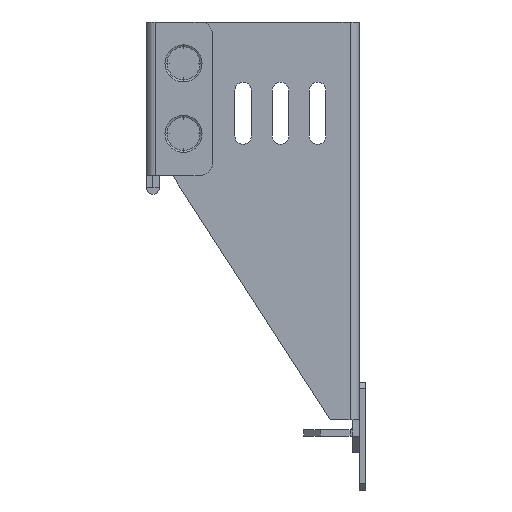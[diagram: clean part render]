
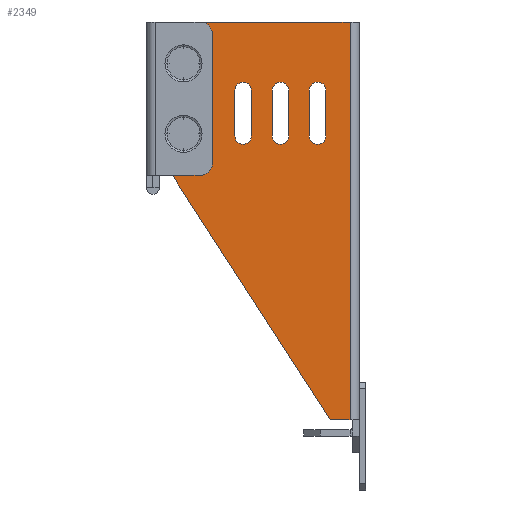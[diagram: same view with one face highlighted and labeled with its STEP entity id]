
A CAD part, left-side view. The second image highlights one B-rep face of the part: STEP entity #2349.
In plain terms, the highlighted planar face has unit normal (-1, 0, 0).
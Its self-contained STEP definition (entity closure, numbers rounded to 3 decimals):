
#513=DIRECTION('',(0.,1.,0.));
#514=VECTOR('',#513,46.2);
#515=CARTESIAN_POINT('',(-72.2,2.2,100.));
#516=LINE('',#515,#514);
#517=DIRECTION('',(0.,-1.,0.));
#518=VECTOR('',#517,4.8);
#519=CARTESIAN_POINT('',(-72.2,7.,4.));
#520=LINE('',#519,#518);
#521=DIRECTION('',(0.,-0.543,-0.84));
#522=VECTOR('',#521,72.618);
#523=CARTESIAN_POINT('',(-72.2,46.4,65.));
#524=LINE('',#523,#522);
#525=DIRECTION('',(0.,-1.,0.));
#526=VECTOR('',#525,2.);
#527=CARTESIAN_POINT('',(-72.2,48.4,65.));
#528=LINE('',#527,#526);
#529=DIRECTION('',(0.,0.,-1.));
#530=VECTOR('',#529,35.);
#531=CARTESIAN_POINT('',(-72.2,48.4,100.));
#532=LINE('',#531,#530);
#533=CARTESIAN_POINT('',(-72.2,10.,72.5));
#534=DIRECTION('',(-1.,0.,0.));
#535=DIRECTION('',(0.,1.,0.));
#536=AXIS2_PLACEMENT_3D('',#533,#534,#535);
#538=DIRECTION('',(0.,0.,-1.));
#539=VECTOR('',#538,11.);
#540=CARTESIAN_POINT('',(-72.2,8.,83.5));
#541=LINE('',#540,#539);
#542=CARTESIAN_POINT('',(-72.2,10.,83.5));
#543=DIRECTION('',(-1.,0.,0.));
#544=DIRECTION('',(0.,-1.,0.));
#545=AXIS2_PLACEMENT_3D('',#542,#543,#544);
#547=DIRECTION('',(0.,0.,1.));
#548=VECTOR('',#547,11.);
#549=CARTESIAN_POINT('',(-72.2,12.,72.5));
#550=LINE('',#549,#548);
#551=CARTESIAN_POINT('',(-72.2,19.,72.5));
#552=DIRECTION('',(-1.,0.,0.));
#553=DIRECTION('',(0.,1.,0.));
#554=AXIS2_PLACEMENT_3D('',#551,#552,#553);
#556=DIRECTION('',(0.,0.,-1.));
#557=VECTOR('',#556,11.);
#558=CARTESIAN_POINT('',(-72.2,17.,83.5));
#559=LINE('',#558,#557);
#560=CARTESIAN_POINT('',(-72.2,19.,83.5));
#561=DIRECTION('',(-1.,0.,0.));
#562=DIRECTION('',(0.,-1.,0.));
#563=AXIS2_PLACEMENT_3D('',#560,#561,#562);
#565=DIRECTION('',(0.,0.,1.));
#566=VECTOR('',#565,11.);
#567=CARTESIAN_POINT('',(-72.2,21.,72.5));
#568=LINE('',#567,#566);
#569=CARTESIAN_POINT('',(-72.2,28.,72.5));
#570=DIRECTION('',(-1.,0.,0.));
#571=DIRECTION('',(0.,1.,0.));
#572=AXIS2_PLACEMENT_3D('',#569,#570,#571);
#574=DIRECTION('',(0.,0.,-1.));
#575=VECTOR('',#574,11.);
#576=CARTESIAN_POINT('',(-72.2,26.,83.5));
#577=LINE('',#576,#575);
#578=CARTESIAN_POINT('',(-72.2,28.,83.5));
#579=DIRECTION('',(-1.,0.,0.));
#580=DIRECTION('',(0.,-1.,0.));
#581=AXIS2_PLACEMENT_3D('',#578,#579,#580);
#583=DIRECTION('',(0.,0.,1.));
#584=VECTOR('',#583,11.);
#585=CARTESIAN_POINT('',(-72.2,30.,72.5));
#586=LINE('',#585,#584);
#587=CARTESIAN_POINT('',(-72.2,42.4,90.));
#588=DIRECTION('',(1.,0.,0.));
#589=DIRECTION('',(0.,0.,1.));
#590=AXIS2_PLACEMENT_3D('',#587,#588,#589);
#592=CARTESIAN_POINT('',(-72.2,42.4,90.));
#593=DIRECTION('',(1.,0.,0.));
#594=DIRECTION('',(0.,0.,-1.));
#595=AXIS2_PLACEMENT_3D('',#592,#593,#594);
#597=CARTESIAN_POINT('',(-72.2,42.4,73.));
#598=DIRECTION('',(1.,0.,0.));
#599=DIRECTION('',(0.,0.,1.));
#600=AXIS2_PLACEMENT_3D('',#597,#598,#599);
#602=CARTESIAN_POINT('',(-72.2,42.4,73.));
#603=DIRECTION('',(1.,0.,0.));
#604=DIRECTION('',(0.,0.,-1.));
#605=AXIS2_PLACEMENT_3D('',#602,#603,#604);
#607=DIRECTION('',(0.,0.,1.));
#608=VECTOR('',#607,96.);
#609=CARTESIAN_POINT('',(-72.2,2.2,4.));
#610=LINE('',#609,#608);
#1341=CARTESIAN_POINT('',(-72.2,2.2,100.));
#1342=CARTESIAN_POINT('',(-72.2,48.4,100.));
#1343=VERTEX_POINT('',#1341);
#1344=VERTEX_POINT('',#1342);
#1345=CARTESIAN_POINT('',(-72.2,48.4,65.));
#1346=VERTEX_POINT('',#1345);
#1413=CARTESIAN_POINT('',(-72.2,12.,72.5));
#1414=CARTESIAN_POINT('',(-72.2,8.,72.5));
#1415=VERTEX_POINT('',#1413);
#1416=VERTEX_POINT('',#1414);
#1417=CARTESIAN_POINT('',(-72.2,12.,83.5));
#1418=VERTEX_POINT('',#1417);
#1419=CARTESIAN_POINT('',(-72.2,8.,83.5));
#1420=VERTEX_POINT('',#1419);
#1429=CARTESIAN_POINT('',(-72.2,21.,72.5));
#1430=CARTESIAN_POINT('',(-72.2,17.,72.5));
#1431=VERTEX_POINT('',#1429);
#1432=VERTEX_POINT('',#1430);
#1433=CARTESIAN_POINT('',(-72.2,21.,83.5));
#1434=VERTEX_POINT('',#1433);
#1435=CARTESIAN_POINT('',(-72.2,17.,83.5));
#1436=VERTEX_POINT('',#1435);
#1477=CARTESIAN_POINT('',(-72.2,7.,4.));
#1478=CARTESIAN_POINT('',(-72.2,2.2,4.));
#1479=VERTEX_POINT('',#1477);
#1480=VERTEX_POINT('',#1478);
#1493=CARTESIAN_POINT('',(-72.2,42.4,92.05));
#1494=CARTESIAN_POINT('',(-72.2,42.4,87.95));
#1495=VERTEX_POINT('',#1493);
#1496=VERTEX_POINT('',#1494);
#1501=CARTESIAN_POINT('',(-72.2,46.4,65.));
#1502=VERTEX_POINT('',#1501);
#1589=CARTESIAN_POINT('',(-72.2,30.,72.5));
#1590=CARTESIAN_POINT('',(-72.2,26.,72.5));
#1591=VERTEX_POINT('',#1589);
#1592=VERTEX_POINT('',#1590);
#1593=CARTESIAN_POINT('',(-72.2,30.,83.5));
#1594=VERTEX_POINT('',#1593);
#1595=CARTESIAN_POINT('',(-72.2,26.,83.5));
#1596=VERTEX_POINT('',#1595);
#1621=CARTESIAN_POINT('',(-72.2,42.4,75.05));
#1622=CARTESIAN_POINT('',(-72.2,42.4,70.95));
#1623=VERTEX_POINT('',#1621);
#1624=VERTEX_POINT('',#1622);
#2289=CARTESIAN_POINT('',(-72.2,0.,26.81));
#2290=DIRECTION('',(-1.,0.,0.));
#2291=DIRECTION('',(0.,0.,1.));
#2292=AXIS2_PLACEMENT_3D('',#2289,#2290,#2291);
#2293=PLANE('',#2292);
#2294=ORIENTED_EDGE('',*,*,#2279,.F.);
#2296=ORIENTED_EDGE('',*,*,#2295,.F.);
#2298=ORIENTED_EDGE('',*,*,#2297,.F.);
#2300=ORIENTED_EDGE('',*,*,#2299,.F.);
#2302=ORIENTED_EDGE('',*,*,#2301,.F.);
#2304=ORIENTED_EDGE('',*,*,#2303,.F.);
#2305=EDGE_LOOP('',(#2294,#2296,#2298,#2300,#2302,#2304));
#2306=FACE_OUTER_BOUND('',#2305,.F.);
#2308=ORIENTED_EDGE('',*,*,#2307,.T.);
#2310=ORIENTED_EDGE('',*,*,#2309,.F.);
#2312=ORIENTED_EDGE('',*,*,#2311,.T.);
#2314=ORIENTED_EDGE('',*,*,#2313,.F.);
#2315=EDGE_LOOP('',(#2308,#2310,#2312,#2314));
#2316=FACE_BOUND('',#2315,.F.);
#2318=ORIENTED_EDGE('',*,*,#2317,.T.);
#2320=ORIENTED_EDGE('',*,*,#2319,.F.);
#2322=ORIENTED_EDGE('',*,*,#2321,.T.);
#2324=ORIENTED_EDGE('',*,*,#2323,.F.);
#2325=EDGE_LOOP('',(#2318,#2320,#2322,#2324));
#2326=FACE_BOUND('',#2325,.F.);
#2328=ORIENTED_EDGE('',*,*,#2327,.T.);
#2330=ORIENTED_EDGE('',*,*,#2329,.F.);
#2332=ORIENTED_EDGE('',*,*,#2331,.T.);
#2334=ORIENTED_EDGE('',*,*,#2333,.F.);
#2335=EDGE_LOOP('',(#2328,#2330,#2332,#2334));
#2336=FACE_BOUND('',#2335,.F.);
#2338=ORIENTED_EDGE('',*,*,#2337,.F.);
#2340=ORIENTED_EDGE('',*,*,#2339,.F.);
#2341=EDGE_LOOP('',(#2338,#2340));
#2342=FACE_BOUND('',#2341,.F.);
#2344=ORIENTED_EDGE('',*,*,#2343,.F.);
#2346=ORIENTED_EDGE('',*,*,#2345,.F.);
#2347=EDGE_LOOP('',(#2344,#2346));
#2348=FACE_BOUND('',#2347,.F.);
#2349=ADVANCED_FACE('',(#2306,#2316,#2326,#2336,#2342,#2348),#2293,.T.);
#537=CIRCLE('',#536,2.);
#546=CIRCLE('',#545,2.);
#555=CIRCLE('',#554,2.);
#564=CIRCLE('',#563,2.);
#573=CIRCLE('',#572,2.);
#582=CIRCLE('',#581,2.);
#591=CIRCLE('',#590,2.05);
#596=CIRCLE('',#595,2.05);
#601=CIRCLE('',#600,2.05);
#606=CIRCLE('',#605,2.05);
#2279=EDGE_CURVE('',#1343,#1344,#516,.T.);
#2295=EDGE_CURVE('',#1480,#1343,#610,.T.);
#2297=EDGE_CURVE('',#1479,#1480,#520,.T.);
#2299=EDGE_CURVE('',#1502,#1479,#524,.T.);
#2301=EDGE_CURVE('',#1346,#1502,#528,.T.);
#2303=EDGE_CURVE('',#1344,#1346,#532,.T.);
#2307=EDGE_CURVE('',#1415,#1416,#537,.T.);
#2309=EDGE_CURVE('',#1420,#1416,#541,.T.);
#2311=EDGE_CURVE('',#1420,#1418,#546,.T.);
#2313=EDGE_CURVE('',#1415,#1418,#550,.T.);
#2317=EDGE_CURVE('',#1431,#1432,#555,.T.);
#2319=EDGE_CURVE('',#1436,#1432,#559,.T.);
#2321=EDGE_CURVE('',#1436,#1434,#564,.T.);
#2323=EDGE_CURVE('',#1431,#1434,#568,.T.);
#2327=EDGE_CURVE('',#1591,#1592,#573,.T.);
#2329=EDGE_CURVE('',#1596,#1592,#577,.T.);
#2331=EDGE_CURVE('',#1596,#1594,#582,.T.);
#2333=EDGE_CURVE('',#1591,#1594,#586,.T.);
#2337=EDGE_CURVE('',#1495,#1496,#591,.T.);
#2339=EDGE_CURVE('',#1496,#1495,#596,.T.);
#2343=EDGE_CURVE('',#1623,#1624,#601,.T.);
#2345=EDGE_CURVE('',#1624,#1623,#606,.T.);
